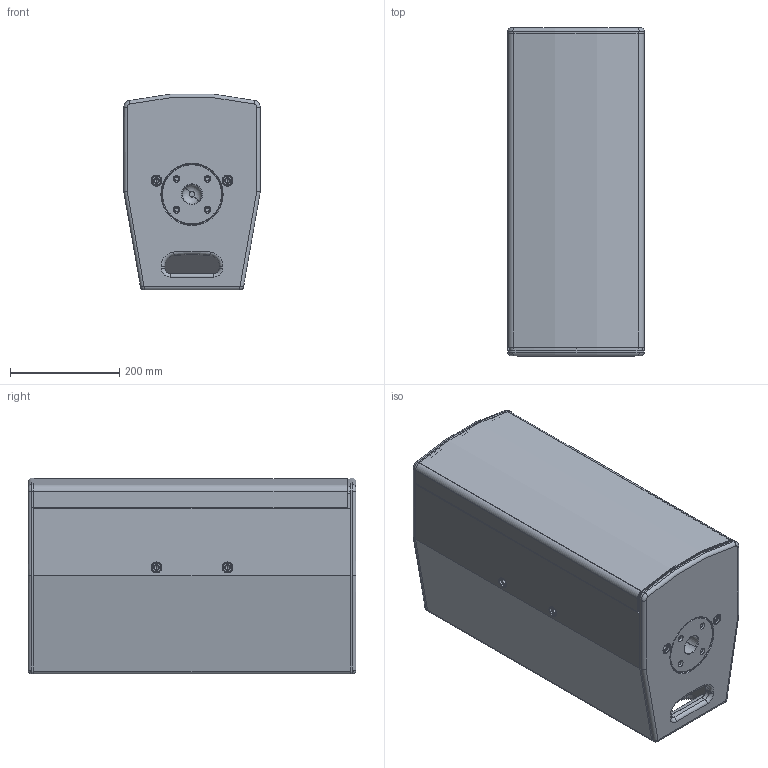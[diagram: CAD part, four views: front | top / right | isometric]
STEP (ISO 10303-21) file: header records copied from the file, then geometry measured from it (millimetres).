
FILE_DESCRIPTION (( 'STEP AP203' ), '1' );
FILE_NAME ('SEEBURG F3.STEP', '2026-03-04T15:31:25', ( '' ), ( '' ), 'SwSTEP 2.0', 'SolidWorks 2009', '' );
FILE_SCHEMA (( 'CONFIG_CONTROL_DESIGN' ));
Length unit declared in the file: millimetre
Products named in the file (14): SpeakOn NLT4MPXX; ASF F2 passiv; SEEBURG F3; F3 Boden; F3 Deckel; F3 Seite vorn; F3 Seite hinten; F3 Rückwand; F3 Griffverkleidung; M10-Flansch_kompakt_symmetrisch; M10-Flansch_doppelt_multirigg; Euromet Top Hat 35mm x 110mm; F3 Gitter blank; ASF F3xov komplett
Assembly tree (20 placements, depth 3):
  SEEBURG F3
    F3 Seite hinten  x2
    M10-Flansch_doppelt_multirigg  x3
    M10-Flansch_kompakt_symmetrisch  x2
    F3 Seite vorn  x2
    F3 Deckel
    F3 Griffverkleidung  x2
    ASF F3xov komplett
      SpeakOn NLT4MPXX  x2
      ASF F2 passiv
    F3 Boden
    Euromet Top Hat 35mm x 110mm
    F3 Rückwand
    F3 Gitter blank
Bounding box: 250 x 600 x 358.5 mm (x, y, z)
Volume: 9389016.8 mm3; surface area: 2036993.3 mm2
Topology: 19 solids, 23 shells, 3626 faces, 9595 edges, 5899 vertices
Faces by surface type: plane 1604, cylinder 957, torus 401, bspline 336, sphere 234, cone 94
Entity records: 66678 total; most frequent: CARTESIAN_POINT 19049, ORIENTED_EDGE 9724, DIRECTION 9576, EDGE_CURVE 4862, AXIS2_PLACEMENT_3D 3533, VERTEX_POINT 3050, LINE 2510, VECTOR 2510
